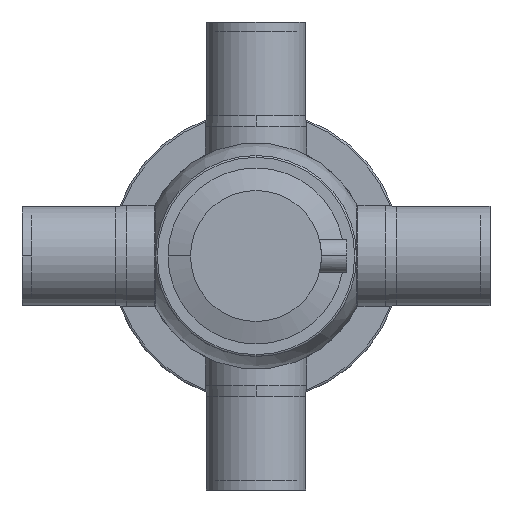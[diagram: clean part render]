
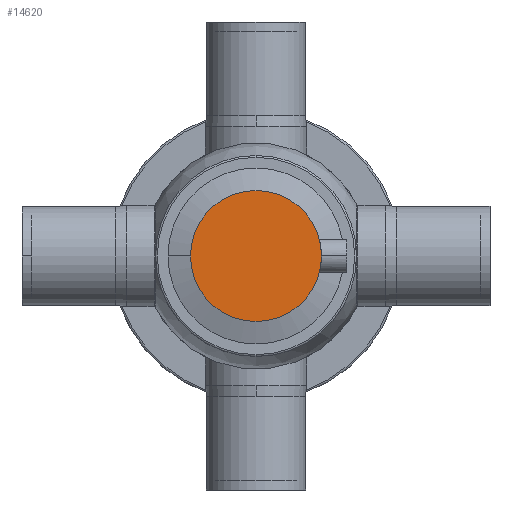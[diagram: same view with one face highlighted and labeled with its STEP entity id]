
A CAD part, front view. The second image highlights one B-rep face of the part: STEP entity #14620.
In plain terms, the highlighted planar face has unit normal (0, -1, 0).
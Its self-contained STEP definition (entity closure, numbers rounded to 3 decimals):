
#9530=CARTESIAN_POINT('',(-35.,-92.85,0.));
#9540=VERTEX_POINT('',#9530);
#14380=CARTESIAN_POINT('',(35.,-92.85,0.))
;
#14390=VERTEX_POINT('',#14380);
#14420=CARTESIAN_POINT('',(0.,-92.85,0.));
#14430=DIRECTION('',(0.,-1.,0.));
#14440=DIRECTION('',(-1.,0.,0.));
#14450=AXIS2_PLACEMENT_3D('',#14420,#14430,#14440);
#14460=CIRCLE('',#14450,35.);
#14470=EDGE_CURVE('',#14390,#9540,#14460,.T.);
#14520=CARTESIAN_POINT('',(0.,-92.85,0.));
#14530=DIRECTION('',(0.,-1.,0.));
#14540=DIRECTION('',(-1.,0.,0.));
#14550=AXIS2_PLACEMENT_3D('',#14520,#14530,#14540);
#14560=PLANE('',#14550);
#14570=EDGE_CURVE('',#9540,#14390,#14460,.T.);
#14580=ORIENTED_EDGE('',*,*,#14570,.T.);
#14590=ORIENTED_EDGE('',*,*,#14470,.T.);
#14600=EDGE_LOOP('',(#14590,#14580));
#14610=FACE_OUTER_BOUND('',#14600,.T.);
#14620=ADVANCED_FACE('',(#14610),#14560,.T.);
